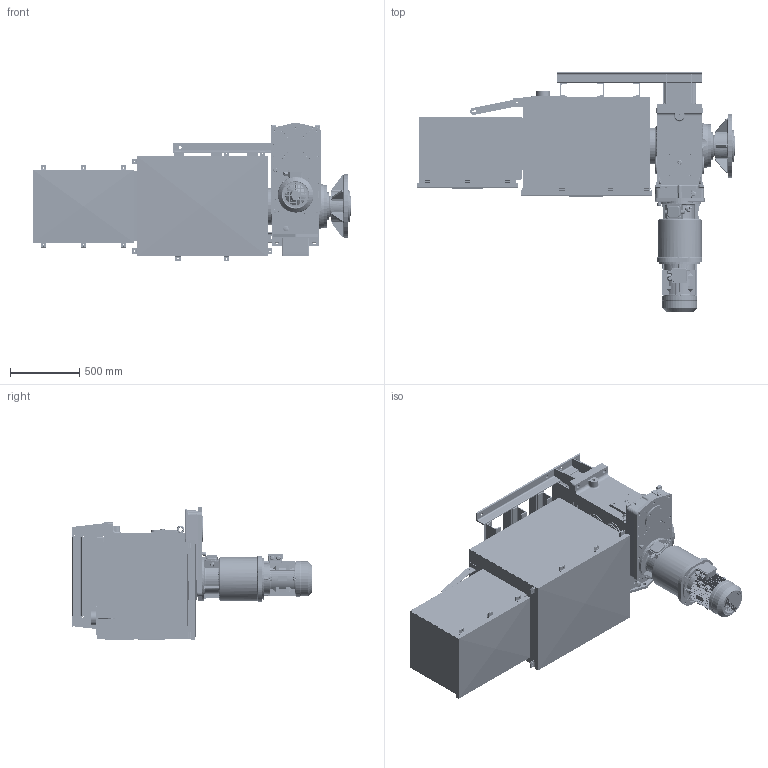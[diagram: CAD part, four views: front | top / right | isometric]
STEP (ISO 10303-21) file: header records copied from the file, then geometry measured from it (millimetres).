
FILE_DESCRIPTION(/* description */ (''),/* implementation_level */ '2;1');
FILE_NAME(/* name */ 'K:\NEMANJA\CABLE REEL\CABLE REEL DA\0700-6\07006002 DAPR-MCGBSR\STEP\75943.stp',/* time_stamp */ '2017-03-16T13:13:32+01:00',/* author */ ('vlakrc01'),/* organization */ ('Hillmar Industries Ltd.'),/* preprocessor_version */ 'ST-DEVELOPER v16.1',/* originating_system */ 'Autodesk Inventor 2016',/* authorisation */ '');
FILE_SCHEMA (('AUTOMOTIVE_DESIGN { 1 0 10303 214 3 1 1 }'));
Products named in the file (1): 75943
Bounding box: 2299.67 x 1729.71 x 999.12 mm (x, y, z)
Volume: 110315315.2 mm3; surface area: 23041094.5 mm2
Topology: 20 solids, 20 shells, 7745 faces, 20970 edges, 13498 vertices
Faces by surface type: plane 4271, cylinder 1880, bspline 815, cone 433, torus 309, sphere 37
Full cylindrical faces by diameter (mm): 3 x4, 7 x4, 8 x3, 8.376 x24, 8.731 x1, 10 x35, 10.106 x84, 11 x42, 12 x10, 12.5 x6, 13 x35, 13.5 x12, 14 x32, 14.3 x8, 15 x8, 18 x3, 18.256 x3, 18.38 x4, 20 x17, 20.5 x4, 21.336 x1, 22 x20, 22.225 x1, 22.3 x4, 23.812 x2, 24.917 x1, 24.918 x1, 25 x8, 27 x4, 28 x5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
Entity records: 268463 total; most frequent: CARTESIAN_POINT 74601, ORIENTED_EDGE 39558, DIRECTION 35786, EDGE_CURVE 19757, VERTEX_POINT 13075, AXIS2_PLACEMENT_3D 12111, LINE 11564, VECTOR 11564
